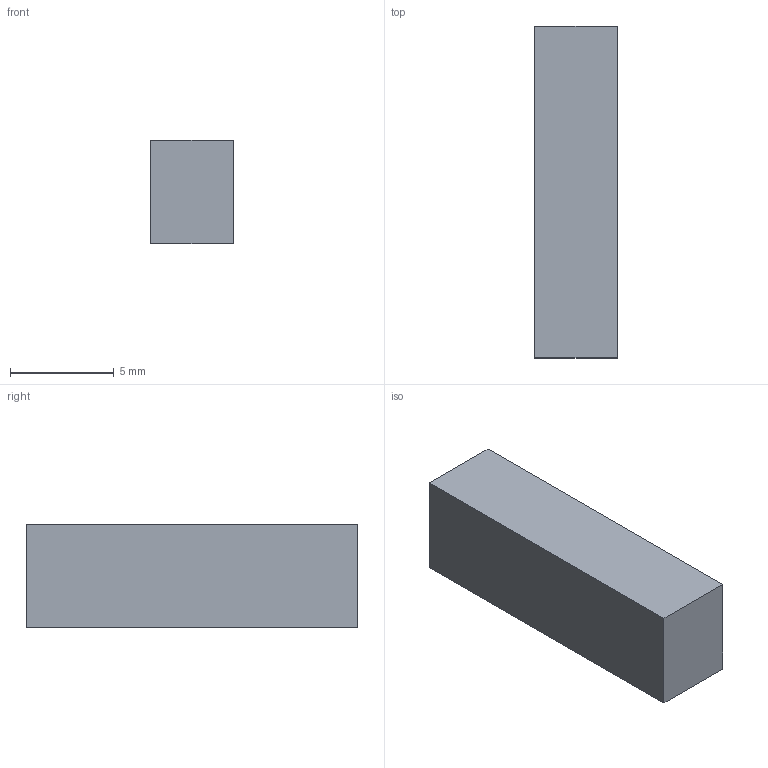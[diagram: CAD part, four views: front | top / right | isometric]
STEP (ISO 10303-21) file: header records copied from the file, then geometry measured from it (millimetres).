
FILE_DESCRIPTION(('Open CASCADE Model'),'2;1');
FILE_NAME('Open CASCADE Shape Model','2026-10-04T02:31:41',('Author'),( 'Open CASCADE'),'Open CASCADE STEP processor 8.0','Open CASCADE 8.0' ,'Unknown');
FILE_SCHEMA(('AUTOMOTIVE_DESIGN { 1 0 10303 214 1 1 1 1 }'));
Length unit declared in the file: millimetre
Products named in the file (1): Open CASCADE STEP translator 8.0 277
Bounding box: 4 x 16 x 5 mm (x, y, z)
Volume: 320 mm3; surface area: 328 mm2
Topology: 1 solids, 1 shells, 6 faces, 12 edges, 8 vertices
Faces by surface type: plane 6
Entity records: 322 total; most frequent: CARTESIAN_POINT 51, DIRECTION 50, LINE 36, VECTOR 36, ORIENTED_EDGE 24, PCURVE 24, DEFINITIONAL_REPRESENTATION 24, EDGE_CURVE 12
